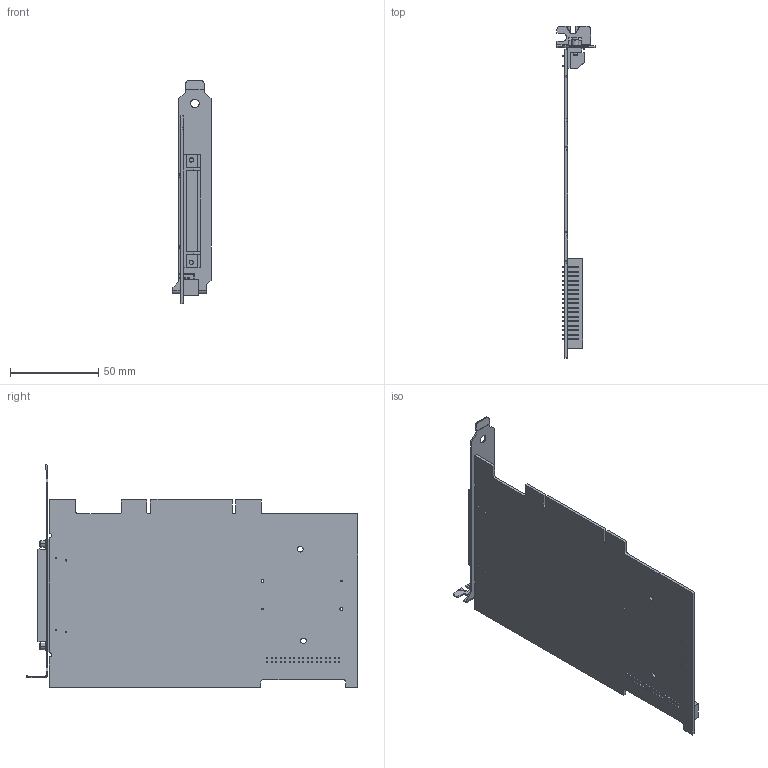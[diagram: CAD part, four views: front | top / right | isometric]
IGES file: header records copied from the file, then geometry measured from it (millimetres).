
Start section:  PTC IGES file: cu_pci-6533.igs
Global section: file name: cu_pci-6533.igs; native system: Pro/ENGINEER by Parametric Technology Corporation; preprocessor: 2006080; author: jjorden; organization: Unknown; date: 100104.130419; units: inch
Bounding box: 21.59 x 187.77 x 126.21 mm (x, y, z)
Surface area: 46053.1 mm2 (no closed solid volume)
Topology: 0 solids, 0 shells, 836 faces, 4428 edges, 4428 vertices
Faces by surface type: bspline 687, revolution 149
